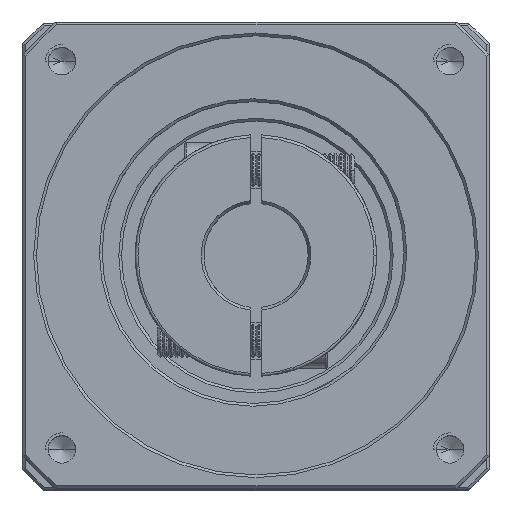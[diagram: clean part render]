
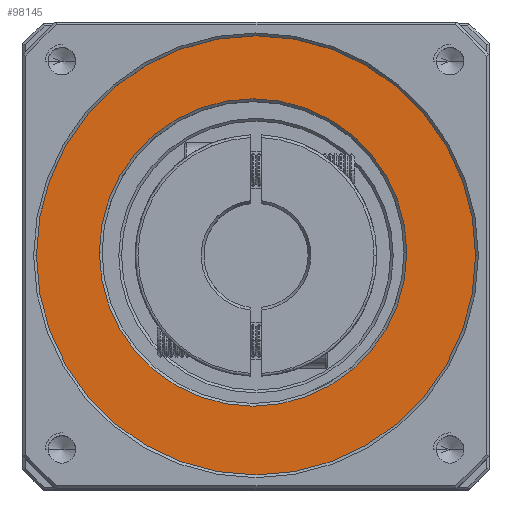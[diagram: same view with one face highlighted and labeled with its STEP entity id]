
A CAD part, top view. The second image highlights one B-rep face of the part: STEP entity #98145.
In plain terms, the highlighted planar face has unit normal (0, 0, 1).
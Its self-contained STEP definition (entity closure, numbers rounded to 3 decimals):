
#383 = VERTEX_POINT ( 'NONE', #60834 ) ;
#2731 = EDGE_CURVE ( 'NONE', #72795, #46243, #57723, .T. ) ;
#6169 = DIRECTION ( 'NONE',  ( 0., 0., -1. ) ) ;
#6695 = CIRCLE ( 'NONE', #59339, 40. ) ;
#11074 = ORIENTED_EDGE ( 'NONE', *, *, #77177, .T. ) ;
#11170 = CARTESIAN_POINT ( 'NONE',  ( -30.508, 52.391, -13.128 ) ) ;
#20394 = EDGE_CURVE ( 'NONE', #97067, #383, #126635, .T. ) ;
#22928 = FACE_BOUND ( 'NONE', #78449, .T. ) ;
#30720 = EDGE_CURVE ( 'NONE', #383, #97067, #55739, .T. ) ;
#31539 = DIRECTION ( 'NONE',  ( 0., 0., 1. ) ) ;
#46243 = VERTEX_POINT ( 'NONE', #48625 ) ;
#48625 = CARTESIAN_POINT ( 'NONE',  ( 10.034, 51.857, -13.128 ) ) ;
#49427 = ORIENTED_EDGE ( 'NONE', *, *, #2731, .T. ) ;
#49497 = DIRECTION ( 'NONE',  ( 1., 0., 0. ) ) ;
#51997 = FACE_OUTER_BOUND ( 'NONE', #95385, .T. ) ;
#53605 = DIRECTION ( 'NONE',  ( 1., 0., 0. ) ) ;
#54845 = DIRECTION ( 'NONE',  ( 0., 0., 1. ) ) ;
#55739 = CIRCLE ( 'NONE', #69322, 28. ) ;
#57723 = CIRCLE ( 'NONE', #118188, 40. ) ;
#58620 = DIRECTION ( 'NONE',  ( 0., 0., -1. ) ) ;
#59339 = AXIS2_PLACEMENT_3D ( 'NONE', #77237, #87043, #125522 ) ;
#60138 = CARTESIAN_POINT ( 'NONE',  ( -29.966, 51.857, -13.128 ) ) ;
#60834 = CARTESIAN_POINT ( 'NONE',  ( -2.508, 52.391, -13.128 ) ) ;
#64762 = CARTESIAN_POINT ( 'NONE',  ( -58.508, 52.391, -13.128 ) ) ;
#67800 = ORIENTED_EDGE ( 'NONE', *, *, #20394, .T. ) ;
#68757 = PLANE ( 'NONE',  #70582 ) ;
#69322 = AXIS2_PLACEMENT_3D ( 'NONE', #11170, #58620, #70210 ) ;
#69830 = CARTESIAN_POINT ( 'NONE',  ( -69.966, 51.857, -13.128 ) ) ;
#70210 = DIRECTION ( 'NONE',  ( 1., 0., 0. ) ) ;
#70582 = AXIS2_PLACEMENT_3D ( 'NONE', #60138, #31539, #49497 ) ;
#72795 = VERTEX_POINT ( 'NONE', #69830 ) ;
#77177 = EDGE_CURVE ( 'NONE', #46243, #72795, #6695, .T. ) ;
#77237 = CARTESIAN_POINT ( 'NONE',  ( -29.966, 51.857, -13.128 ) ) ;
#78449 = EDGE_LOOP ( 'NONE', ( #106890, #67800 ) ) ;
#87043 = DIRECTION ( 'NONE',  ( 0., 0., 1. ) ) ;
#93829 = CARTESIAN_POINT ( 'NONE',  ( -29.966, 51.857, -13.128 ) ) ;
#95385 = EDGE_LOOP ( 'NONE', ( #11074, #49427 ) ) ;
#97067 = VERTEX_POINT ( 'NONE', #64762 ) ;
#98145 = ADVANCED_FACE ( 'NONE', ( #51997, #22928 ), #68757, .T. ) ;
#106890 = ORIENTED_EDGE ( 'NONE', *, *, #30720, .T. ) ;
#113485 = CARTESIAN_POINT ( 'NONE',  ( -30.508, 52.391, -13.128 ) ) ;
#114491 = AXIS2_PLACEMENT_3D ( 'NONE', #113485, #6169, #115624 ) ;
#115624 = DIRECTION ( 'NONE',  ( 1., 0., 0. ) ) ;
#118188 = AXIS2_PLACEMENT_3D ( 'NONE', #93829, #54845, #53605 ) ;
#125522 = DIRECTION ( 'NONE',  ( 1., 0., 0. ) ) ;
#126635 = CIRCLE ( 'NONE', #114491, 28. ) ;
